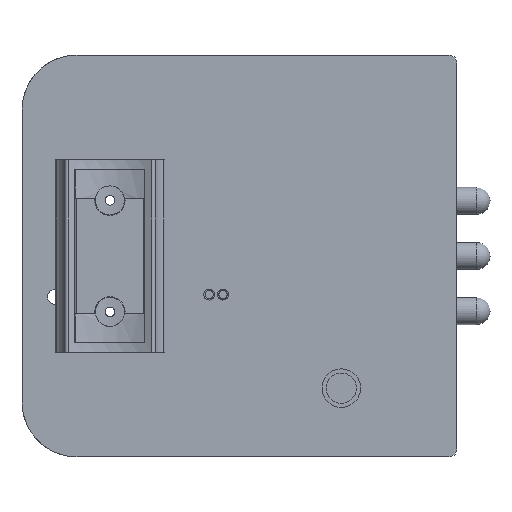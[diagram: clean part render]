
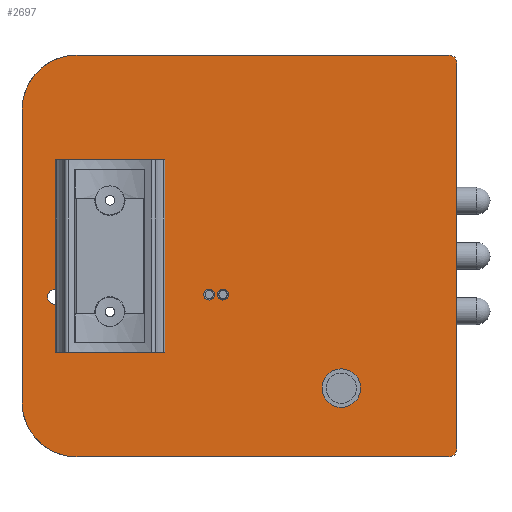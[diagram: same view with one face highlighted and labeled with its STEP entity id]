
A CAD part, front view. The second image highlights one B-rep face of the part: STEP entity #2697.
In plain terms, the highlighted planar face has unit normal (0, -1, 0).
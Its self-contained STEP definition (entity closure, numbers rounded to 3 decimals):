
#173=CIRCLE('',#3034,1.25);
#179=CIRCLE('',#3058,1.25);
#180=CIRCLE('',#3059,1.25);
#181=CIRCLE('',#3060,18.95);
#182=CIRCLE('',#3061,21.45);
#183=CIRCLE('',#3062,1.);
#184=CIRCLE('',#3063,1.);
#185=CIRCLE('',#3064,3.5);
#186=CIRCLE('',#3065,10.);
#187=CIRCLE('',#3066,10.);
#188=CIRCLE('',#3067,1.5);
#189=CIRCLE('',#3068,1.5);
#725=ORIENTED_EDGE('',*,*,#1249,.F.);
#726=ORIENTED_EDGE('',*,*,#1250,.F.);
#727=ORIENTED_EDGE('',*,*,#1251,.F.);
#728=ORIENTED_EDGE('',*,*,#1206,.F.);
#729=ORIENTED_EDGE('',*,*,#1252,.F.);
#730=ORIENTED_EDGE('',*,*,#1253,.F.);
#731=ORIENTED_EDGE('',*,*,#1254,.F.);
#732=ORIENTED_EDGE('',*,*,#1255,.F.);
#733=ORIENTED_EDGE('',*,*,#1256,.T.);
#734=ORIENTED_EDGE('',*,*,#1257,.T.);
#735=ORIENTED_EDGE('',*,*,#1258,.F.);
#736=ORIENTED_EDGE('',*,*,#1259,.T.);
#737=ORIENTED_EDGE('',*,*,#1260,.F.);
#738=ORIENTED_EDGE('',*,*,#1261,.T.);
#739=ORIENTED_EDGE('',*,*,#1262,.T.);
#740=ORIENTED_EDGE('',*,*,#1263,.T.);
#1206=EDGE_CURVE('',#1509,#1507,#173,.T.);
#1249=EDGE_CURVE('',#1544,#1544,#179,.T.);
#1250=EDGE_CURVE('',#1545,#1546,#180,.T.);
#1251=EDGE_CURVE('',#1507,#1545,#181,.T.);
#1252=EDGE_CURVE('',#1546,#1509,#182,.T.);
#1253=EDGE_CURVE('',#1547,#1547,#183,.T.);
#1254=EDGE_CURVE('',#1548,#1548,#184,.T.);
#1255=EDGE_CURVE('',#1549,#1549,#185,.T.);
#1256=EDGE_CURVE('',#1550,#1551,#1787,.T.);
#1257=EDGE_CURVE('',#1551,#1552,#186,.F.);
#1258=EDGE_CURVE('',#1553,#1552,#1788,.T.);
#1259=EDGE_CURVE('',#1553,#1554,#187,.F.);
#1260=EDGE_CURVE('',#1555,#1554,#1789,.T.);
#1261=EDGE_CURVE('',#1555,#1556,#188,.F.);
#1262=EDGE_CURVE('',#1556,#1557,#1790,.T.);
#1263=EDGE_CURVE('',#1557,#1550,#189,.F.);
#1507=VERTEX_POINT('',#4494);
#1509=VERTEX_POINT('',#4498);
#1544=VERTEX_POINT('',#4587);
#1545=VERTEX_POINT('',#4589);
#1546=VERTEX_POINT('',#4590);
#1547=VERTEX_POINT('',#4594);
#1548=VERTEX_POINT('',#4596);
#1549=VERTEX_POINT('',#4598);
#1550=VERTEX_POINT('',#4600);
#1551=VERTEX_POINT('',#4601);
#1552=VERTEX_POINT('',#4603);
#1553=VERTEX_POINT('',#4605);
#1554=VERTEX_POINT('',#4607);
#1555=VERTEX_POINT('',#4609);
#1556=VERTEX_POINT('',#4611);
#1557=VERTEX_POINT('',#4613);
#1787=LINE('',#4599,#2004);
#1788=LINE('',#4604,#2005);
#1789=LINE('',#4608,#2006);
#1790=LINE('',#4612,#2007);
#2004=VECTOR('',#3715,1000.);
#2005=VECTOR('',#3718,1000.);
#2006=VECTOR('',#3721,1000.);
#2007=VECTOR('',#3724,1000.);
#2175=EDGE_LOOP('',(#725));
#2176=EDGE_LOOP('',(#726,#727,#728,#729));
#2177=EDGE_LOOP('',(#730));
#2178=EDGE_LOOP('',(#731));
#2179=EDGE_LOOP('',(#732));
#2180=EDGE_LOOP('',(#733,#734,#735,#736,#737,#738,#739,#740));
#2398=FACE_BOUND('',#2175,.T.);
#2399=FACE_BOUND('',#2176,.T.);
#2400=FACE_BOUND('',#2177,.T.);
#2401=FACE_BOUND('',#2178,.T.);
#2402=FACE_BOUND('',#2179,.T.);
#2403=FACE_BOUND('',#2180,.T.);
#2571=PLANE('',#3057);
#2697=ADVANCED_FACE('',(#2398,#2399,#2400,#2401,#2402,#2403),#2571,.F.);
#3034=AXIS2_PLACEMENT_3D('',#4499,#3624,#3625);
#3057=AXIS2_PLACEMENT_3D('',#4585,#3699,#3700);
#3058=AXIS2_PLACEMENT_3D('',#4586,#3701,#3702);
#3059=AXIS2_PLACEMENT_3D('',#4588,#3703,#3704);
#3060=AXIS2_PLACEMENT_3D('',#4591,#3705,#3706);
#3061=AXIS2_PLACEMENT_3D('',#4592,#3707,#3708);
#3062=AXIS2_PLACEMENT_3D('',#4593,#3709,#3710);
#3063=AXIS2_PLACEMENT_3D('',#4595,#3711,#3712);
#3064=AXIS2_PLACEMENT_3D('',#4597,#3713,#3714);
#3065=AXIS2_PLACEMENT_3D('',#4602,#3716,#3717);
#3066=AXIS2_PLACEMENT_3D('',#4606,#3719,#3720);
#3067=AXIS2_PLACEMENT_3D('',#4610,#3722,#3723);
#3068=AXIS2_PLACEMENT_3D('',#4614,#3725,#3726);
#3624=DIRECTION('',(0.,-1.,0.));
#3625=DIRECTION('',(1.,0.,0.));
#3699=DIRECTION('',(0.,1.,0.));
#3700=DIRECTION('',(0.,0.,1.));
#3701=DIRECTION('',(0.,-1.,0.));
#3702=DIRECTION('',(1.,0.,0.));
#3703=DIRECTION('',(0.,-1.,0.));
#3704=DIRECTION('',(-1.,0.,0.));
#3705=DIRECTION('',(0.,1.,0.));
#3706=DIRECTION('',(1.,0.,0.));
#3707=DIRECTION('',(0.,-1.,0.));
#3708=DIRECTION('',(1.,0.,0.));
#3709=DIRECTION('',(0.,-1.,0.));
#3710=DIRECTION('',(-1.,0.,0.));
#3711=DIRECTION('',(0.,-1.,0.));
#3712=DIRECTION('',(-1.,0.,0.));
#3713=DIRECTION('',(0.,-1.,0.));
#3714=DIRECTION('',(-1.,0.,0.));
#3715=DIRECTION('',(1.,0.,0.));
#3716=DIRECTION('',(0.,1.,0.));
#3717=DIRECTION('',(0.,0.,1.));
#3718=DIRECTION('',(0.,0.,-1.));
#3719=DIRECTION('',(0.,1.,0.));
#3720=DIRECTION('',(0.,0.,1.));
#3721=DIRECTION('',(1.,0.,0.));
#3722=DIRECTION('',(0.,1.,0.));
#3723=DIRECTION('',(0.,0.,1.));
#3724=DIRECTION('',(0.,0.,-1.));
#3725=DIRECTION('',(0.,1.,0.));
#3726=DIRECTION('',(0.,0.,1.));
#4494=CARTESIAN_POINT('',(-14.565,-5.625,8.85));
#4498=CARTESIAN_POINT('',(-14.565,-5.625,11.35));
#4499=CARTESIAN_POINT('',(-14.565,-5.625,10.1));
#4585=CARTESIAN_POINT('',(-18.6,-5.625,36.5));
#4586=CARTESIAN_POINT('',(-14.565,-5.625,-10.1));
#4587=CARTESIAN_POINT('',(-13.315,-5.625,-10.1));
#4588=CARTESIAN_POINT('',(-4.465,-5.625,7.394));
#4589=CARTESIAN_POINT('',(-5.09,-5.625,6.311));
#4590=CARTESIAN_POINT('',(-3.84,-5.625,8.476));
#4591=CARTESIAN_POINT('',(-14.565,-5.625,-10.1));
#4592=CARTESIAN_POINT('',(-14.565,-5.625,-10.1));
#4593=CARTESIAN_POINT('',(-35.1,-5.625,7.));
#4594=CARTESIAN_POINT('',(-36.1,-5.625,7.));
#4595=CARTESIAN_POINT('',(-32.6,-5.625,7.));
#4596=CARTESIAN_POINT('',(-33.6,-5.625,7.));
#4597=CARTESIAN_POINT('',(-56.6,-5.625,24.));
#4598=CARTESIAN_POINT('',(-60.1,-5.625,24.));
#4599=CARTESIAN_POINT('',(-18.6,-5.625,-36.5));
#4600=CARTESIAN_POINT('',(-76.1,-5.625,-36.5));
#4601=CARTESIAN_POINT('',(-8.6,-5.625,-36.5));
#4602=CARTESIAN_POINT('',(-8.6,-5.625,-26.5));
#4603=CARTESIAN_POINT('',(1.4,-5.625,-26.5));
#4604=CARTESIAN_POINT('',(1.4,-5.625,36.5));
#4605=CARTESIAN_POINT('',(1.4,-5.625,26.5));
#4606=CARTESIAN_POINT('',(-8.6,-5.625,26.5));
#4607=CARTESIAN_POINT('',(-8.6,-5.625,36.5));
#4608=CARTESIAN_POINT('',(-18.6,-5.625,36.5));
#4609=CARTESIAN_POINT('',(-76.1,-5.625,36.5));
#4610=CARTESIAN_POINT('',(-76.1,-5.625,35.));
#4611=CARTESIAN_POINT('',(-77.6,-5.625,35.));
#4612=CARTESIAN_POINT('',(-77.6,-5.625,36.5));
#4613=CARTESIAN_POINT('',(-77.6,-5.625,-35.));
#4614=CARTESIAN_POINT('',(-76.1,-5.625,-35.));
